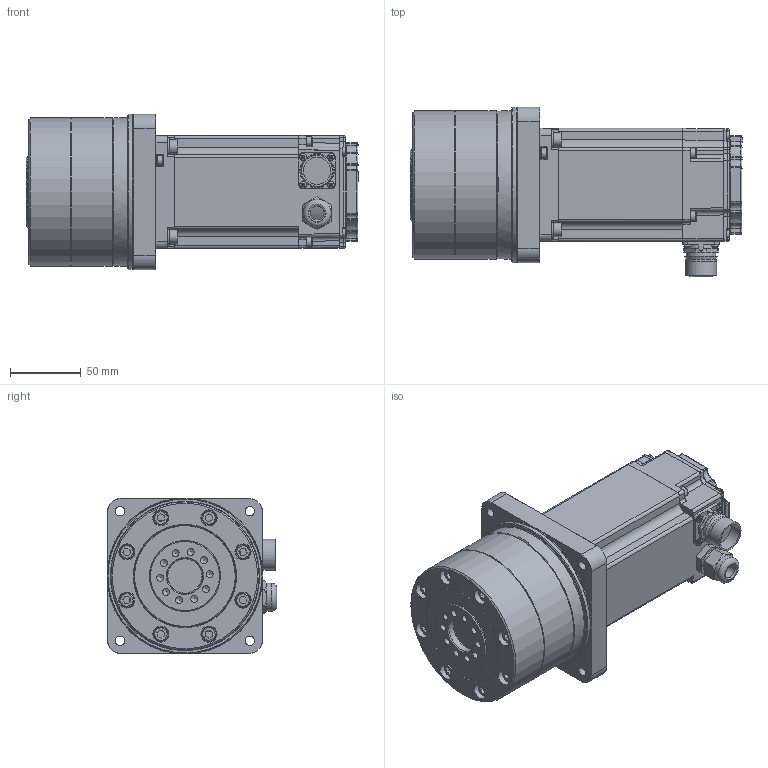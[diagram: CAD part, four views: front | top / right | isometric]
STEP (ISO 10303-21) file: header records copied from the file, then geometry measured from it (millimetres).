
FILE_DESCRIPTION(/* description */ (''),/* implementation_level */ '2;1');
FILE_NAME(/* name */ 'C:\Users\Sij_Takitani\Desktop\ECO_S.stp',/* time_stamp */ '2020-10-14T08:36:16+09:00',/* author */ ('Sij_Takitani'),/* organization */ (''),/* preprocessor_version */ 'ST-DEVELOPER v17',/* originating_system */ 'Autodesk Inventor 2018',/* authorisation */ '');
FILE_SCHEMA (('AUTOMOTIVE_DESIGN { 1 0 10303 214 3 1 1 }'));
Products named in the file (5): Assembly3; ECO_S 20200729; COM0A203200_motore B40; 009M006R018NG; 062W006----RG
Assembly tree (10 placements, depth 2):
  Assembly3
    ECO_S 20200729
    COM0A203200_motore B40
    009M006R018NG  x4
    062W006----RG  x4
Bounding box: 235 x 120 x 110 mm (x, y, z)
Volume: 1614136.7 mm3; surface area: 141965.8 mm2
Topology: 10 solids, 47 shells, 1478 faces, 3690 edges, 2305 vertices
Faces by surface type: plane 529, cylinder 495, cone 200, bspline 120, torus 108, sphere 26
Full cylindrical faces by diameter (mm): 2 x1, 2.1 x4, 2.208 x4, 2.4 x4, 2.459 x4, 2.5 x4, 2.8 x4, 3 x4, 3.242 x8, 4 x8, 4.917 x14, 5 x4, 5.5 x4, 6 x4, 6.647 x4, 7 x8, 8 x1, 10 x13, 11 x8, 14.999 x1, 16.4 x1, 16.5 x1, 18 x1, 19 x1, 19.2 x1, 19.3 x1, 19.7 x1, 20 x1, 21 x1, 21.3 x1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
Entity records: 56265 total; most frequent: CARTESIAN_POINT 21514, DIRECTION 7139, ORIENTED_EDGE 6956, EDGE_CURVE 3478, AXIS2_PLACEMENT_3D 2825, VERTEX_POINT 2203, EDGE_LOOP 1559, LINE 1489
